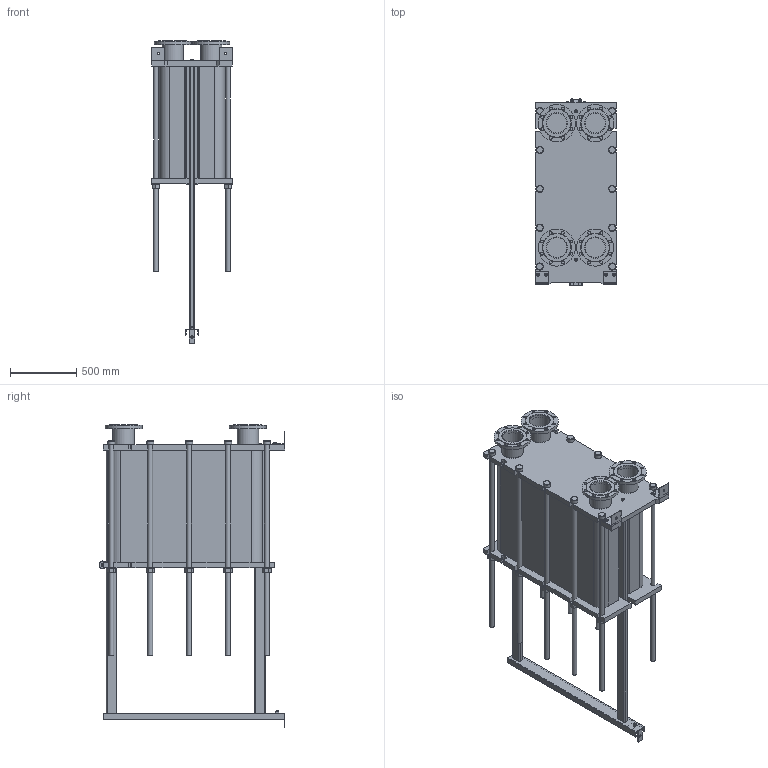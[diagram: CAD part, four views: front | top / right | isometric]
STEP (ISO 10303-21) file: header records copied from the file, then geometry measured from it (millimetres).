
FILE_DESCRIPTION(/* description */ (''),/* implementation_level */ '2;1');
FILE_NAME(/* name */ 'C:\Users\zhuro\Desktop\ENCO\TO\ЭН-041\ЭН-0,5-041-246-1.stp',/* time_stamp */ '2022-06-06T11:09:53+03:00',/* author */ ('zhuro'),/* organization */ (''),/* preprocessor_version */ 'ST-DEVELOPER v18.1',/* originating_system */ 'Autodesk Inventor 2022',/* authorisation */ '');
FILE_SCHEMA (('AUTOMOTIVE_DESIGN { 1 0 10303 214 3 1 1 }'));
Length unit declared in the file: millimetre
Products named in the file (1): ЭН-0,5-041-246-1
Bounding box: 610 x 1406.5 x 2285 mm (x, y, z)
Volume: 568073464 mm3; surface area: 12243691.4 mm2
Topology: 52 solids, 52 shells, 711 faces, 1696 edges, 1094 vertices
Faces by surface type: plane 487, cylinder 177, cone 41, torus 6
Full cylindrical faces by diameter (mm): 8 x4, 10 x2, 16 x8, 18 x3, 22 x32, 36 x24, 50 x1, 54 x10, 60 x12, 151 x4, 161 x8, 280 x4
Entity records: 22667 total; most frequent: CARTESIAN_POINT 5230, DIRECTION 3644, ORIENTED_EDGE 3392, EDGE_CURVE 1696, AXIS2_PLACEMENT_3D 1272, LINE 1100, VECTOR 1100, VERTEX_POINT 1094
